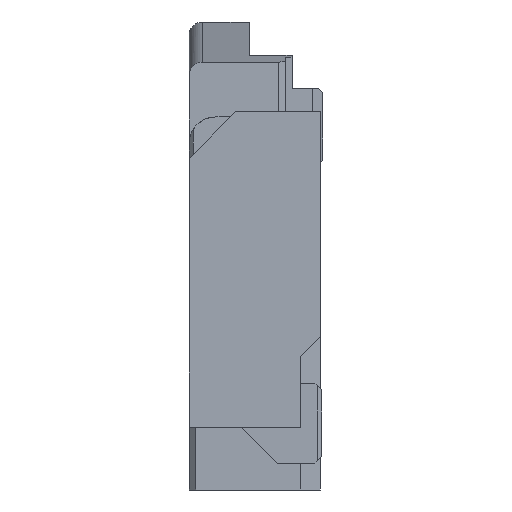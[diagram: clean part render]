
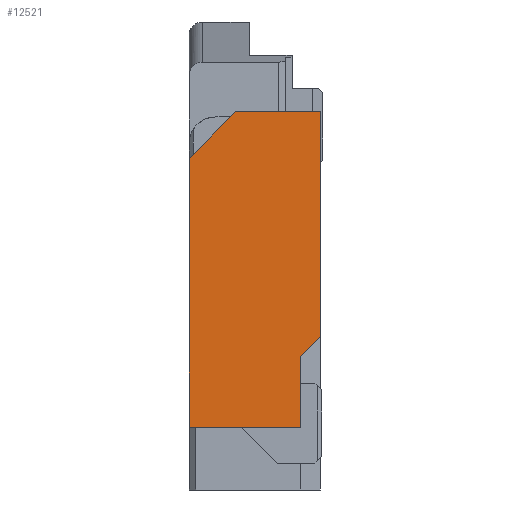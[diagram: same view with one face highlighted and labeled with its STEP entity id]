
A CAD part, left-side view. The second image highlights one B-rep face of the part: STEP entity #12521.
In plain terms, the highlighted planar face has unit normal (-1, 0, 0).
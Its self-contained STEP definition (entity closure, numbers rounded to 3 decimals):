
#1242 = AXIS2_PLACEMENT_3D ( 'NONE', #5232, #5218, #5217 ) ;
#1737 = VECTOR ( 'NONE', #9931, 1000. ) ;
#1874 = VECTOR ( 'NONE', #8293, 1000. ) ;
#1884 = VECTOR ( 'NONE', #8305, 1000. ) ;
#4849 = VERTEX_POINT ( 'NONE', #11825 ) ;
#4856 = VERTEX_POINT ( 'NONE', #11818 ) ;
#4909 = VERTEX_POINT ( 'NONE', #11765 ) ;
#4958 = VERTEX_POINT ( 'NONE', #11716 ) ;
#5125 = VERTEX_POINT ( 'NONE', #11600 ) ;
#5129 = VERTEX_POINT ( 'NONE', #11594 ) ;
#5147 = VERTEX_POINT ( 'NONE', #11573 ) ;
#5217 = DIRECTION ( 'NONE',  ( 0., 0., 1. ) ) ;
#5218 = DIRECTION ( 'NONE',  ( 1., 0., 0. ) ) ;
#5221 = PLANE ( 'NONE',  #1242 ) ;
#5222 = FACE_OUTER_BOUND ( 'NONE', #16184, .T. ) ;
#5232 = CARTESIAN_POINT ( 'NONE',  ( -5.85, 0.53, -3. ) ) ;
#5763 = VECTOR ( 'NONE', #10324, 1000. ) ;
#5781 = VECTOR ( 'NONE', #10297, 1000. ) ;
#5832 = VECTOR ( 'NONE', #10327, 1000. ) ;
#5887 = VECTOR ( 'NONE', #10546, 1000. ) ;
#8293 = DIRECTION ( 'NONE',  ( 0., 0.707, -0.707 ) ) ;
#8294 = CARTESIAN_POINT ( 'NONE',  ( -5.85, 0.17, -2. ) ) ;
#8295 = LINE ( 'NONE', #8294, #1874 ) ;
#8305 = DIRECTION ( 'NONE',  ( 0., -1., 0. ) ) ;
#8306 = CARTESIAN_POINT ( 'NONE',  ( -5.85, 0.02, -0.17 ) ) ;
#8323 = LINE ( 'NONE', #8306, #1884 ) ;
#8657 = EDGE_CURVE ( 'NONE', #4849, #4909, #10565, .T. ) ;
#8730 = EDGE_CURVE ( 'NONE', #4958, #5125, #10352, .T. ) ;
#8731 = EDGE_CURVE ( 'NONE', #5147, #4958, #10326, .T. ) ;
#8740 = EDGE_CURVE ( 'NONE', #5125, #4856, #10299, .T. ) ;
#8861 = EDGE_CURVE ( 'NONE', #5147, #5129, #9934, .T. ) ;
#8965 = EDGE_CURVE ( 'NONE', #4856, #4849, #8323, .T. ) ;
#8969 = EDGE_CURVE ( 'NONE', #4909, #5129, #8295, .T. ) ;
#9931 = DIRECTION ( 'NONE',  ( 0., 0., 1. ) ) ;
#9932 = CARTESIAN_POINT ( 'NONE',  ( -5.85, 0.17, -3. ) ) ;
#9934 = LINE ( 'NONE', #9932, #1737 ) ;
#10297 = DIRECTION ( 'NONE',  ( 0., -0.707, 0.707 ) ) ;
#10298 = CARTESIAN_POINT ( 'NONE',  ( -5.85, 1., -0.52 ) ) ;
#10299 = LINE ( 'NONE', #10298, #5781 ) ;
#10324 = DIRECTION ( 'NONE',  ( 0., 1., 0. ) ) ;
#10325 = CARTESIAN_POINT ( 'NONE',  ( -5.85, 0.17, -2.53 ) ) ;
#10326 = LINE ( 'NONE', #10325, #5763 ) ;
#10327 = DIRECTION ( 'NONE',  ( 0., 0., 1. ) ) ;
#10328 = CARTESIAN_POINT ( 'NONE',  ( -5.85, 1., -1.2 ) ) ;
#10352 = LINE ( 'NONE', #10328, #5832 ) ;
#10546 = DIRECTION ( 'NONE',  ( 0., 0., -1. ) ) ;
#10547 = CARTESIAN_POINT ( 'NONE',  ( -5.85, 0.02, -0.17 ) ) ;
#10565 = LINE ( 'NONE', #10547, #5887 ) ;
#11573 = CARTESIAN_POINT ( 'NONE',  ( -5.85, 0.17, -2.53 ) ) ;
#11594 = CARTESIAN_POINT ( 'NONE',  ( -5.85, 0.17, -2. ) ) ;
#11600 = CARTESIAN_POINT ( 'NONE',  ( -5.85, 1., -0.52 ) ) ;
#11716 = CARTESIAN_POINT ( 'NONE',  ( -5.85, 1., -2.53 ) ) ;
#11765 = CARTESIAN_POINT ( 'NONE',  ( -5.85, 0.02, -1.85 ) ) ;
#11818 = CARTESIAN_POINT ( 'NONE',  ( -5.85, 0.65, -0.17 ) ) ;
#11825 = CARTESIAN_POINT ( 'NONE',  ( -5.85, 0.02, -0.17 ) ) ;
#12521 = ADVANCED_FACE ( 'NONE', ( #5222 ), #5221, .F. ) ;
#14660 = ORIENTED_EDGE ( 'NONE', *, *, #8969, .F. ) ;
#14661 = ORIENTED_EDGE ( 'NONE', *, *, #8657, .F. ) ;
#14662 = ORIENTED_EDGE ( 'NONE', *, *, #8965, .F. ) ;
#14663 = ORIENTED_EDGE ( 'NONE', *, *, #8740, .F. ) ;
#14664 = ORIENTED_EDGE ( 'NONE', *, *, #8730, .F. ) ;
#14665 = ORIENTED_EDGE ( 'NONE', *, *, #8731, .F. ) ;
#14666 = ORIENTED_EDGE ( 'NONE', *, *, #8861, .T. ) ;
#16184 = EDGE_LOOP ( 'NONE', ( #14660, #14661, #14662, #14663, #14664, #14665, #14666 ) ) ;
